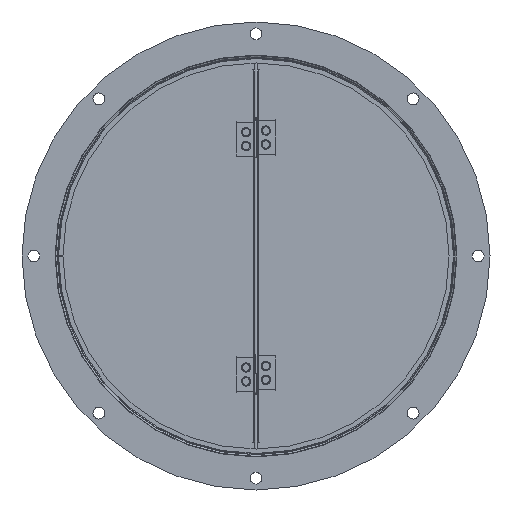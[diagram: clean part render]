
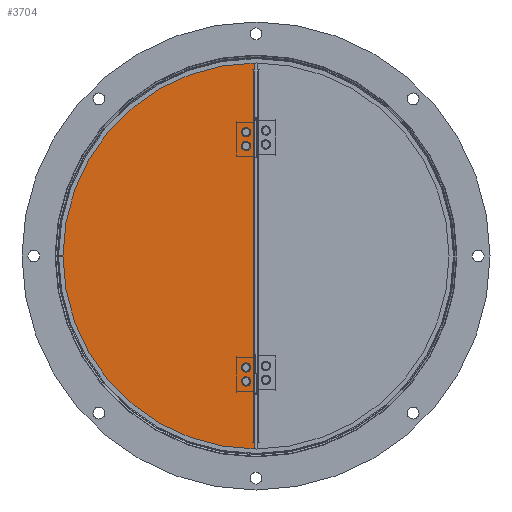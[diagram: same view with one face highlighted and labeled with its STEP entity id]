
A CAD part, left-side view. The second image highlights one B-rep face of the part: STEP entity #3704.
In plain terms, the highlighted planar face has unit normal (-1, 0, 0) as drawn and (0, 0, -1) by its records, which use the part's own axes.
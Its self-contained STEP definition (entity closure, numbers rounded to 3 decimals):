
#206=LINE('',#6084,#423);
#228=LINE('',#6147,#445);
#229=LINE('',#6150,#446);
#232=LINE('',#6157,#449);
#233=LINE('',#6162,#450);
#234=LINE('',#6164,#451);
#235=LINE('',#6167,#452);
#423=VECTOR('',#4851,10.);
#445=VECTOR('',#4919,10.);
#446=VECTOR('',#4922,10.);
#449=VECTOR('',#4931,10.);
#450=VECTOR('',#4936,10.);
#451=VECTOR('',#4937,10.);
#452=VECTOR('',#4940,10.);
#771=PLANE('',#4310);
#983=FACE_BOUND('',#1379,.T.);
#984=FACE_BOUND('',#1380,.T.);
#985=FACE_BOUND('',#1381,.T.);
#986=FACE_BOUND('',#1382,.T.);
#1115=FACE_OUTER_BOUND('',#1378,.T.);
#1378=EDGE_LOOP('',(#2826,#2827,#2828,#2829,#2830,#2831,#2832,#2833,#2834,
#2835,#2836));
#1379=EDGE_LOOP('',(#2837));
#1380=EDGE_LOOP('',(#2838));
#1381=EDGE_LOOP('',(#2839));
#1382=EDGE_LOOP('',(#2840));
#1686=CIRCLE('',#4272,2.5);
#1695=CIRCLE('',#4289,2.6);
#1696=CIRCLE('',#4291,2.6);
#1697=CIRCLE('',#4293,2.6);
#1698=CIRCLE('',#4295,2.6);
#1703=CIRCLE('',#4308,0.05);
#1704=CIRCLE('',#4311,198.5);
#1705=CIRCLE('',#4312,0.05);
#1893=VERTEX_POINT('',#6046);
#1895=VERTEX_POINT('',#6049);
#1910=VERTEX_POINT('',#6083);
#1923=VERTEX_POINT('',#6120);
#1924=VERTEX_POINT('',#6123);
#1925=VERTEX_POINT('',#6126);
#1926=VERTEX_POINT('',#6129);
#1927=VERTEX_POINT('',#6136);
#1928=VERTEX_POINT('',#6140);
#1929=VERTEX_POINT('',#6149);
#1930=VERTEX_POINT('',#6153);
#1931=VERTEX_POINT('',#6159);
#1932=VERTEX_POINT('',#6161);
#1933=VERTEX_POINT('',#6163);
#1934=VERTEX_POINT('',#6165);
#2232=EDGE_CURVE('',#1895,#1893,#1686,.T.);
#2249=EDGE_CURVE('',#1895,#1910,#206,.T.);
#2267=EDGE_CURVE('',#1923,#1923,#1695,.T.);
#2268=EDGE_CURVE('',#1924,#1924,#1696,.T.);
#2269=EDGE_CURVE('',#1925,#1925,#1697,.T.);
#2270=EDGE_CURVE('',#1926,#1926,#1698,.T.);
#2279=EDGE_CURVE('',#1927,#1928,#228,.T.);
#2280=EDGE_CURVE('',#1929,#1910,#229,.T.);
#2282=EDGE_CURVE('',#1930,#1929,#1703,.T.);
#2284=EDGE_CURVE('',#1928,#1930,#232,.T.);
#2285=EDGE_CURVE('',#1931,#1893,#1704,.T.);
#2286=EDGE_CURVE('',#1932,#1931,#233,.T.);
#2287=EDGE_CURVE('',#1932,#1933,#234,.T.);
#2288=EDGE_CURVE('',#1933,#1934,#1705,.T.);
#2289=EDGE_CURVE('',#1934,#1927,#235,.T.);
#2826=ORIENTED_EDGE('',*,*,#2232,.T.);
#2827=ORIENTED_EDGE('',*,*,#2285,.F.);
#2828=ORIENTED_EDGE('',*,*,#2286,.F.);
#2829=ORIENTED_EDGE('',*,*,#2287,.T.);
#2830=ORIENTED_EDGE('',*,*,#2288,.T.);
#2831=ORIENTED_EDGE('',*,*,#2289,.T.);
#2832=ORIENTED_EDGE('',*,*,#2279,.T.);
#2833=ORIENTED_EDGE('',*,*,#2284,.T.);
#2834=ORIENTED_EDGE('',*,*,#2282,.T.);
#2835=ORIENTED_EDGE('',*,*,#2280,.T.);
#2836=ORIENTED_EDGE('',*,*,#2249,.F.);
#2837=ORIENTED_EDGE('',*,*,#2267,.T.);
#2838=ORIENTED_EDGE('',*,*,#2268,.T.);
#2839=ORIENTED_EDGE('',*,*,#2269,.T.);
#2840=ORIENTED_EDGE('',*,*,#2270,.T.);
#3704=ADVANCED_FACE('',(#1115,#983,#984,#985,#986),#771,.F.);
#4272=AXIS2_PLACEMENT_3D('',#6050,#4821,#4822);
#4289=AXIS2_PLACEMENT_3D('',#6121,#4881,#4882);
#4291=AXIS2_PLACEMENT_3D('',#6124,#4885,#4886);
#4293=AXIS2_PLACEMENT_3D('',#6127,#4889,#4890);
#4295=AXIS2_PLACEMENT_3D('',#6130,#4893,#4894);
#4308=AXIS2_PLACEMENT_3D('',#6154,#4926,#4927);
#4310=AXIS2_PLACEMENT_3D('',#6158,#4932,#4933);
#4311=AXIS2_PLACEMENT_3D('',#6160,#4934,#4935);
#4312=AXIS2_PLACEMENT_3D('',#6166,#4938,#4939);
#4821=DIRECTION('center_axis',(0.,0.,1.));
#4822=DIRECTION('ref_axis',(1.,0.,0.));
#4851=DIRECTION('',(0.,-1.,0.));
#4881=DIRECTION('center_axis',(0.,0.,1.));
#4882=DIRECTION('ref_axis',(1.,0.,0.));
#4885=DIRECTION('center_axis',(0.,0.,1.));
#4886=DIRECTION('ref_axis',(1.,0.,0.));
#4889=DIRECTION('center_axis',(0.,0.,1.));
#4890=DIRECTION('ref_axis',(1.,0.,0.));
#4893=DIRECTION('center_axis',(0.,0.,1.));
#4894=DIRECTION('ref_axis',(1.,0.,0.));
#4919=DIRECTION('',(0.,1.,0.));
#4922=DIRECTION('',(-1.,0.,0.));
#4926=DIRECTION('center_axis',(0.,0.,1.));
#4927=DIRECTION('ref_axis',(0.,-1.,0.));
#4931=DIRECTION('',(1.,0.,0.));
#4932=DIRECTION('center_axis',(0.,0.,1.));
#4933=DIRECTION('ref_axis',(1.,0.,0.));
#4934=DIRECTION('center_axis',(0.,0.,1.));
#4935=DIRECTION('ref_axis',(0.003,-1.,0.));
#4936=DIRECTION('',(0.,-1.,0.));
#4937=DIRECTION('',(1.,0.,0.));
#4938=DIRECTION('center_axis',(0.,0.,1.));
#4939=DIRECTION('ref_axis',(0.,1.,0.));
#4940=DIRECTION('',(-1.,0.,0.));
#6046=CARTESIAN_POINT('',(3.,198.477,0.));
#6049=CARTESIAN_POINT('',(0.5,195.999,0.));
#6050=CARTESIAN_POINT('Origin',(0.5,198.499,0.));
#6083=CARTESIAN_POINT('',(0.5,188.599,0.));
#6084=CARTESIAN_POINT('',(0.5,198.499,0.));
#6120=CARTESIAN_POINT('',(6.4,111.4,0.));
#6121=CARTESIAN_POINT('Origin',(9.,111.4,0.));
#6123=CARTESIAN_POINT('',(6.4,125.4,0.));
#6124=CARTESIAN_POINT('Origin',(9.,125.4,0.));
#6126=CARTESIAN_POINT('',(6.4,-127.,0.));
#6127=CARTESIAN_POINT('Origin',(9.,-127.,0.));
#6129=CARTESIAN_POINT('',(6.4,-113.,0.));
#6130=CARTESIAN_POINT('Origin',(9.,-113.,0.));
#6136=CARTESIAN_POINT('',(2.,-188.499,0.));
#6140=CARTESIAN_POINT('',(2.,188.499,0.));
#6147=CARTESIAN_POINT('',(2.,94.25,0.));
#6149=CARTESIAN_POINT('',(2.05,188.599,0.));
#6150=CARTESIAN_POINT('',(35.204,188.599,0.));
#6153=CARTESIAN_POINT('',(2.05,188.499,0.));
#6154=CARTESIAN_POINT('Origin',(2.05,188.549,0.));
#6157=CARTESIAN_POINT('',(35.979,188.499,0.));
#6158=CARTESIAN_POINT('Origin',(69.908,0.,0.));
#6159=CARTESIAN_POINT('',(0.5,-198.499,0.));
#6160=CARTESIAN_POINT('Origin',(0.,0.,0.));
#6161=CARTESIAN_POINT('',(0.5,-188.599,0.));
#6162=CARTESIAN_POINT('',(0.5,198.499,0.));
#6163=CARTESIAN_POINT('',(2.05,-188.599,0.));
#6164=CARTESIAN_POINT('',(35.979,-188.599,0.));
#6165=CARTESIAN_POINT('',(2.05,-188.499,0.));
#6166=CARTESIAN_POINT('Origin',(2.05,-188.549,0.));
#6167=CARTESIAN_POINT('',(35.204,-188.499,0.));
